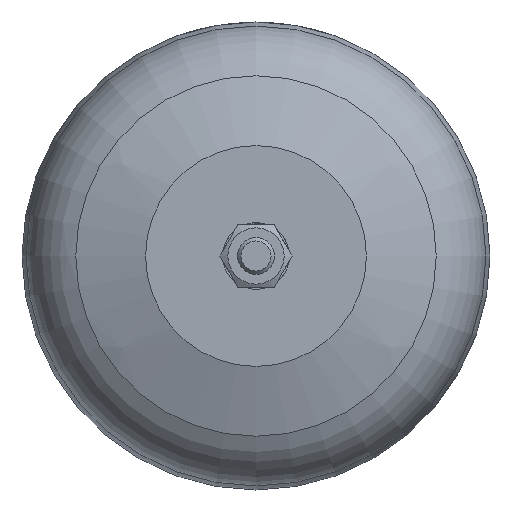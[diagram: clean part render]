
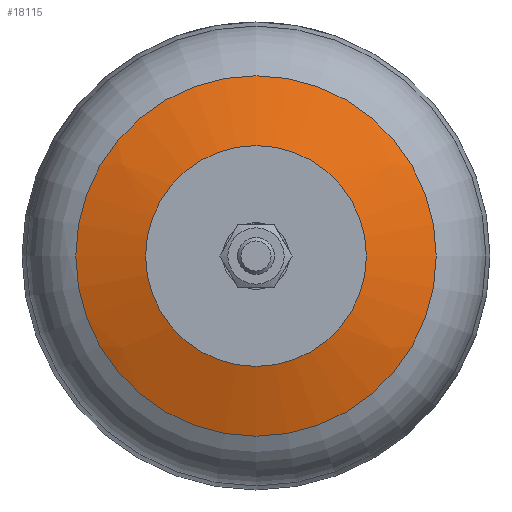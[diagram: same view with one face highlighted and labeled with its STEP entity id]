
A CAD part, front view. The second image highlights one B-rep face of the part: STEP entity #18115.
In plain terms, the highlighted spherical face has radius 127 mm.
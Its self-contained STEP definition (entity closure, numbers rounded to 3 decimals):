
#19=SPHERICAL_SURFACE('',#19435,127.);
#543=FACE_BOUND('',#6112,.T.);
#4981=FACE_OUTER_BOUND('',#6111,.T.);
#6111=EDGE_LOOP('',(#17076));
#6112=EDGE_LOOP('',(#17077));
#6436=CIRCLE('',#19428,30.);
#6439=CIRCLE('',#19434,48.986);
#9007=VERTEX_POINT('',#39670);
#9010=VERTEX_POINT('',#39679);
#11699=EDGE_CURVE('',#9007,#9007,#6436,.T.);
#11702=EDGE_CURVE('',#9010,#9010,#6439,.T.);
#17076=ORIENTED_EDGE('',*,*,#11702,.T.);
#17077=ORIENTED_EDGE('',*,*,#11699,.F.);
#18115=ADVANCED_FACE('',(#4981,#543),#19,.T.);
#19428=AXIS2_PLACEMENT_3D('',#39671,#23280,#23281);
#19434=AXIS2_PLACEMENT_3D('',#39680,#23292,#23293);
#19435=AXIS2_PLACEMENT_3D('',#39681,#23294,#23295);
#23280=DIRECTION('center_axis',(0.,-1.,0.));
#23281=DIRECTION('ref_axis',(-1.,0.,0.));
#23292=DIRECTION('center_axis',(0.,-1.,0.));
#23293=DIRECTION('ref_axis',(-1.,0.,0.));
#23294=DIRECTION('center_axis',(0.,0.,-1.));
#23295=DIRECTION('ref_axis',(1.,0.,0.));
#39670=CARTESIAN_POINT('',(-30.,-171.,0.));
#39671=CARTESIAN_POINT('Origin',(0.,-171.,0.));
#39679=CARTESIAN_POINT('',(-48.986,-164.767,0.));
#39680=CARTESIAN_POINT('Origin',(0.,-164.767,
0.));
#39681=CARTESIAN_POINT('Origin',(0.,-47.594,
0.));
